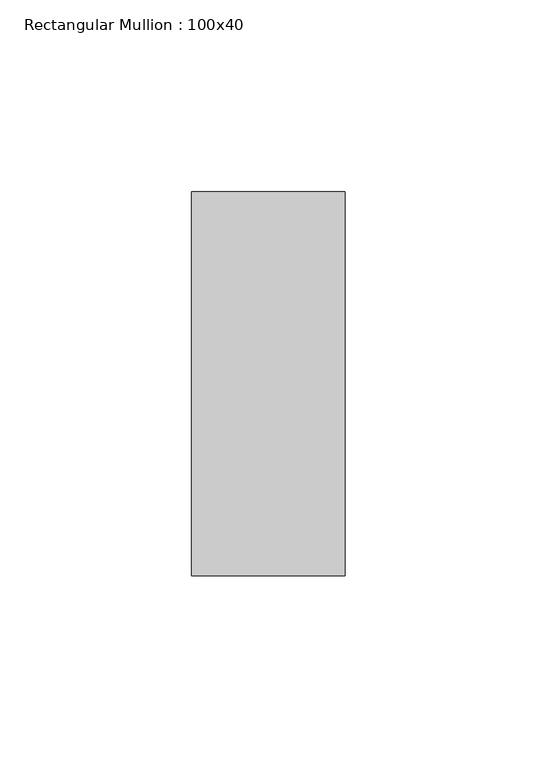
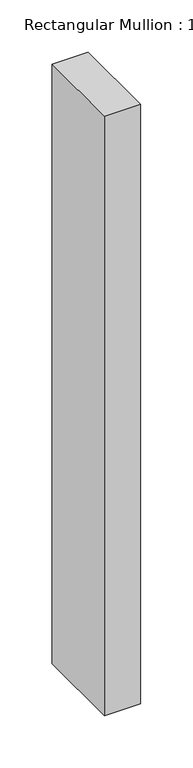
"""IFC4 building model written with IfcOpenShell, lengths in millimetres: member geometry, Rectangular Mullion : 100x40."""

from ifc_helpers import new_model, si_unit, frame, origin, place, context, project, spatial, polyline, outline, extrude, source, transform, mapped, element, save


def rectangular_mullion_100x40_6a87bf0c(model_context):
    return source(origin(), model_context, "Body", "SweptSolid", [
        extrude(outline(polyline([(0.0, 50.0), (0.0, -50.0), (-40.0, -50.0), (-40.0, 50.0), (0.0, 50.0)])), frame((0.0, 0.0, -700.0), z_axis=(0.0, 0.0, 1.0), x_axis=(1.0, 0.0, 0.0)), (0.0, 0.0, 1.0), 700.0),
    ])


if __name__ == "__main__":
    model = new_model("IFC4")
    model_context = context("Model", 3, world=origin())
    ifc_project = project(units=[si_unit("LENGTHUNIT", "METRE", prefix="MILLI")], contexts=[model_context])
    site = spatial("IfcSite", under=ifc_project)
    building = spatial("IfcBuilding", under=site)
    placement = place(None, origin())
    rectangular_mullion_100x40_shape = rectangular_mullion_100x40_6a87bf0c(model_context)
    element("IfcMember", 1, ObjectType="Rectangular Mullion : 100x40", at=placement, inside=building, context=model_context, shape_type="MappedRepresentation", body=[
        mapped(rectangular_mullion_100x40_shape, transform((0.0, 0.0, 0.0), x_axis=(1.0, 0.0, 0.0), y_axis=(0.0, 1.0, 0.0), z_axis=(0.0, 0.0, 1.0))),
    ])
    save(model, "model.ifc")
